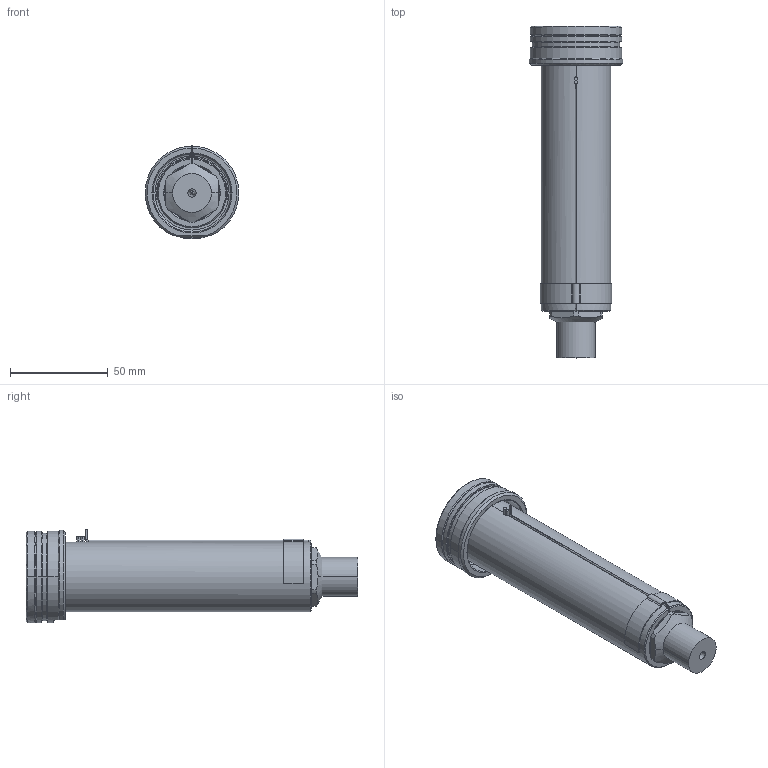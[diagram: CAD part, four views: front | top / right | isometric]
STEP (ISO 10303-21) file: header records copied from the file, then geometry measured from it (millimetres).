
FILE_DESCRIPTION((''),'2;1');
FILE_NAME('EO16_PG-FBE_STD_140_SW','2024-02-19T12:07:13',('sundharh'),(''),'CREO PARAMETRIC BY PTC INC, 2023154','CREO PARAMETRIC BY PTC INC, 2023154','');
FILE_SCHEMA(('CONFIG_CONTROL_DESIGN'));
Length unit declared in the file: millimetre
Products named in the file (1): EO16_PG-FBE_STD_140_SW
Bounding box: 47.97 x 170 x 48 mm (x, y, z)
Volume: 136958.9 mm3; surface area: 36377.4 mm2
Topology: 1 solids, 1 shells, 207 faces, 542 edges, 333 vertices
Faces by surface type: cylinder 81, plane 59, cone 43, torus 14, bspline 7, sphere 3
Entity records: 7521 total; most frequent: CARTESIAN_POINT 2329, DIRECTION 1149, ORIENTED_EDGE 1068, EDGE_CURVE 534, AXIS2_PLACEMENT_3D 479, VERTEX_POINT 333, CIRCLE 279, EDGE_LOOP 225
